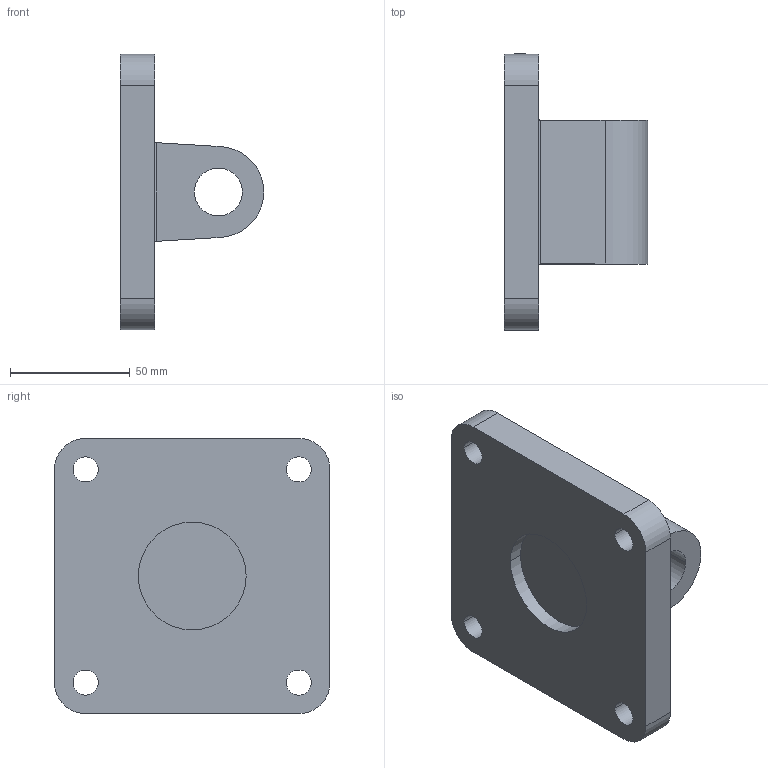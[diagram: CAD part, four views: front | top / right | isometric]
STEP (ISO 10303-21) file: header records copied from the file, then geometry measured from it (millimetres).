
FILE_DESCRIPTION(('CATIA V5 STEP Exchange'),'2;1');
FILE_NAME('D:\stp file for catalog\BAST-CA\CA 100.stp','2018-06-13T05:58:32+00:00',('none'),('none'),'CATIA Version 5-6 Release 2016','CATIA V5 STEP AP203','none');
FILE_SCHEMA(('CONFIG_CONTROL_DESIGN'));
Length unit declared in the file: millimetre
Products named in the file (1): PNC-CA 100-01
Bounding box: 60 x 115.2 x 115 mm (x, y, z)
Volume: 249412.7 mm3; surface area: 45831.6 mm2
Topology: 1 solids, 1 shells, 470 faces, 1305 edges, 870 vertices
Faces by surface type: plane 441, cylinder 29
Entity records: 14231 total; most frequent: ORIENTED_EDGE 2610, CARTESIAN_POINT 2567, DIRECTION 2015, EDGE_CURVE 1305, VECTOR 1247, LINE 1247, VERTEX_POINT 870, EDGE_LOOP 513
